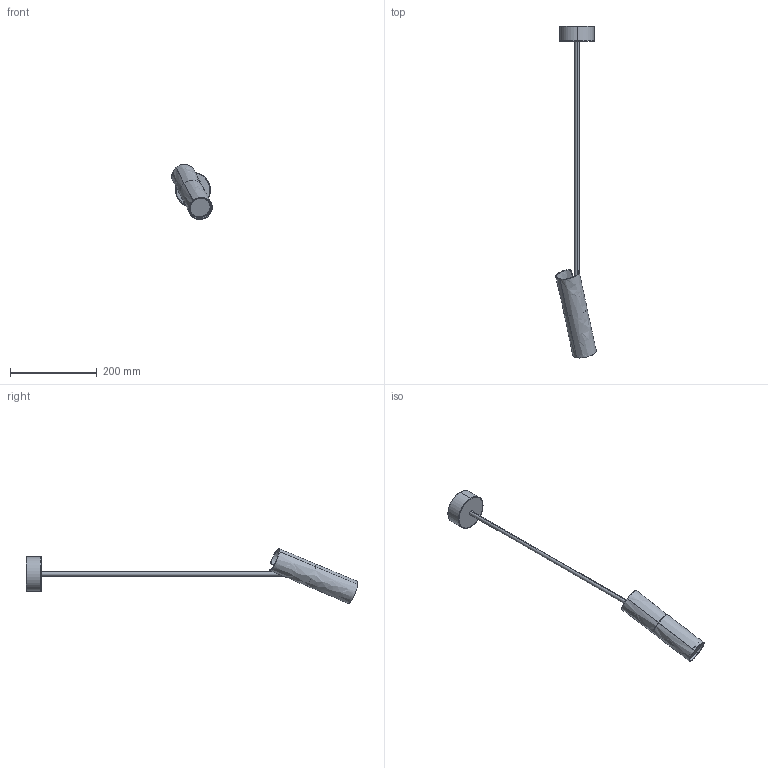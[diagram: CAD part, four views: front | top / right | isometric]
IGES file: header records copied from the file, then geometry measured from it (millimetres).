
Start section: SolidWorks IGES file using analytic representation for surfaces
Global section: file name: C:\Users\Asia\Desktop\EYE 1 ZWIS 77.IGS; native system: SolidWorks 2016; preprocessor: SolidWorks 2016; author: Asia; date: 160803.130045; units: millimetre
Bounding box: 93.26 x 764.56 x 126.71 mm (x, y, z)
Surface area: 114157 mm2 (no closed solid volume)
Topology: 0 solids, 0 shells, 58 faces, 1388 edges, 1388 vertices
Faces by surface type: revolution 34, bspline 24
